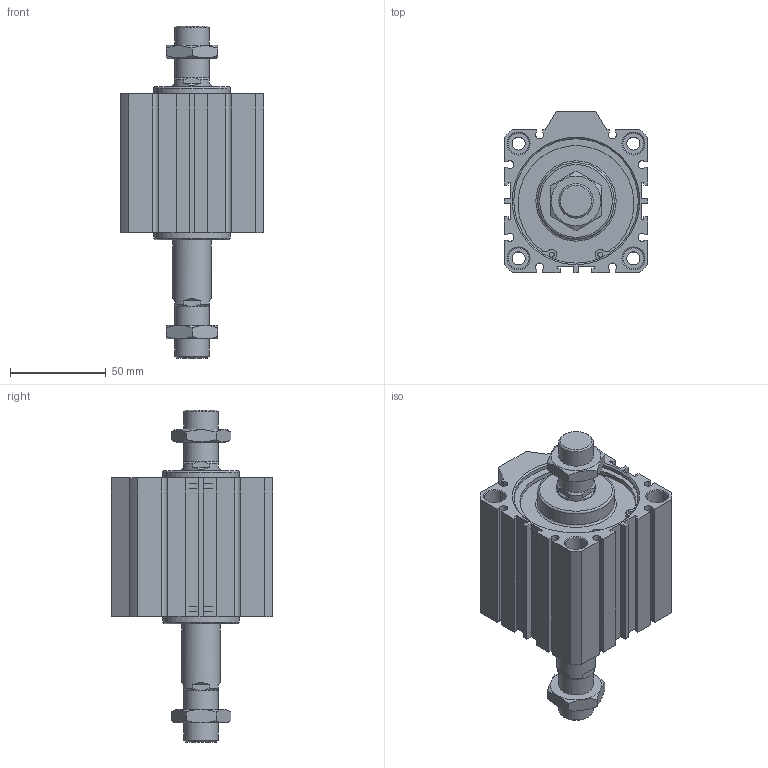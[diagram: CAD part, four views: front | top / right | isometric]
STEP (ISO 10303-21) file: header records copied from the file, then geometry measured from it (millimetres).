
FILE_DESCRIPTION((''),'2;1');
FILE_NAME('I:\3D電子目錄\氣缸\JDD\JDD-BS\JDD63-BS\JDD63x30-BS.stp','2007-02-27T15:17:53',('662F206'),(''),'Autodesk Inventor 10','Autodesk Inventor 10','');
FILE_SCHEMA(('AUTOMOTIVE_DESIGN { 1 0 10303 214 1 1 1 1 }'));
Length unit declared in the file: millimetre
Products named in the file (3): JDD63-BS; R 形環 65
Assembly tree (3 placements, depth 2):
  JDD63-BS
    JDD63-BS
    R 形環 65  x2
Bounding box: 75 x 84.5 x 173.5 mm (x, y, z)
Volume: 405772.4 mm3; surface area: 68004.9 mm2
Topology: 3 solids, 3 shells, 230 faces, 558 edges, 360 vertices
Faces by surface type: plane 132, cylinder 56, cone 38, bspline 2, torus 2
Full cylindrical faces by diameter (mm): 2.7 x4, 3 x2, 6.8 x4, 11 x8, 18 x4, 20 x2, 40 x2, 65 x4, 68 x2
Entity records: 6147 total; most frequent: CARTESIAN_POINT 1216, DIRECTION 1012, ORIENTED_EDGE 936, EDGE_CURVE 468, AXIS2_PLACEMENT_3D 374, VERTEX_POINT 332, EDGE_LOOP 308, VECTOR 264
